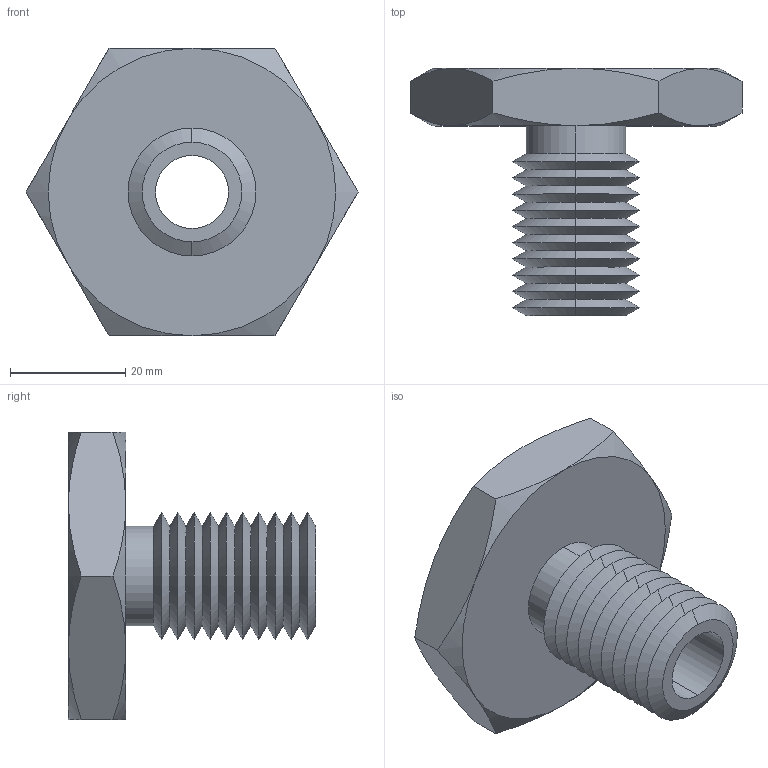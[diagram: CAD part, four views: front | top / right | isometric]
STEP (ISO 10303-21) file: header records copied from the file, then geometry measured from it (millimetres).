
FILE_DESCRIPTION (( 'STEP AP203' ), '1' );
FILE_NAME ('63302.W5088_0,50 UNC-13.step', '2013-12-08T11:37:57', ( 'User' ), ( '' ), 'SwSTEP 2.0', 'SolidWorks 2009', '' );
FILE_SCHEMA (( 'CONFIG_CONTROL_DESIGN' ));
Length unit declared in the file: millimetre
Products named in the file (1): 63302.W5088_0,50 UNC-13
Bounding box: 57.73 x 43 x 50 mm (x, y, z)
Volume: 25698.6 mm3; surface area: 11048.5 mm2
Topology: 1 solids, 1 shells, 67 faces, 138 edges, 74 vertices
Faces by surface type: cone 54, plane 9, cylinder 4
Entity records: 1939 total; most frequent: CARTESIAN_POINT 464, DIRECTION 312, ORIENTED_EDGE 276, EDGE_CURVE 138, AXIS2_PLACEMENT_3D 130, VERTEX_POINT 74, EDGE_LOOP 70, ADVANCED_FACE 67
